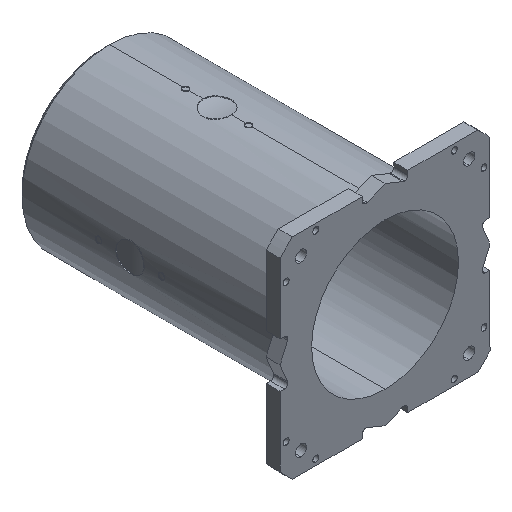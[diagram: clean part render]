
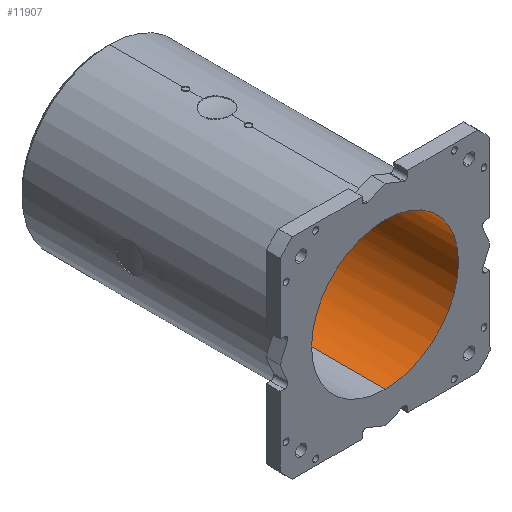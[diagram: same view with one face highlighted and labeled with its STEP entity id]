
A CAD part, isometric view. The second image highlights one B-rep face of the part: STEP entity #11907.
In plain terms, the highlighted cylindrical face has radius 105 mm (diameter 210 mm), a partial arc.
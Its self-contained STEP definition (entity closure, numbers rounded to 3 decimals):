
#224 = DIRECTION ( 'NONE',  ( 0., 0., -1. ) ) ;
#435 = CIRCLE ( 'NONE', #6548, 105. ) ;
#644 = CIRCLE ( 'NONE', #8033, 105. ) ;
#657 = AXIS2_PLACEMENT_3D ( 'NONE', #10338, #2208, #8399 ) ;
#751 = VERTEX_POINT ( 'NONE', #2147 ) ;
#754 = EDGE_CURVE ( 'NONE', #7667, #1467, #5046, .T. ) ;
#894 = EDGE_CURVE ( 'NONE', #10348, #7667, #1686, .T. ) ;
#956 = ORIENTED_EDGE ( 'NONE', *, *, #2364, .F. ) ;
#1080 = CIRCLE ( 'NONE', #8038, 105. ) ;
#1192 = ORIENTED_EDGE ( 'NONE', *, *, #8589, .F. ) ;
#1352 = DIRECTION ( 'NONE',  ( 0., -1., 0. ) ) ;
#1390 = CIRCLE ( 'NONE', #10465, 105. ) ;
#1467 = VERTEX_POINT ( 'NONE', #4011 ) ;
#1686 = CIRCLE ( 'NONE', #2545, 105. ) ;
#1981 = VERTEX_POINT ( 'NONE', #7081 ) ;
#2147 = CARTESIAN_POINT ( 'NONE',  ( 69.052, 382., 79.1 ) ) ;
#2208 = DIRECTION ( 'NONE',  ( 0., -1., 0. ) ) ;
#2211 = CARTESIAN_POINT ( 'NONE',  ( 0., 382., 0. ) ) ;
#2364 = EDGE_CURVE ( 'NONE', #3290, #751, #3843, .T. ) ;
#2411 = EDGE_CURVE ( 'NONE', #3315, #4385, #9750, .T. ) ;
#2437 = DIRECTION ( 'NONE',  ( 0., 0., -1. ) ) ;
#2545 = AXIS2_PLACEMENT_3D ( 'NONE', #5427, #9465, #224 ) ;
#2743 = CARTESIAN_POINT ( 'NONE',  ( 0., 0., -105. ) ) ;
#3020 = VERTEX_POINT ( 'NONE', #8523 ) ;
#3211 = AXIS2_PLACEMENT_3D ( 'NONE', #12420, #1352, #8333 ) ;
#3214 = EDGE_CURVE ( 'NONE', #9667, #4385, #5747, .T. ) ;
#3290 = VERTEX_POINT ( 'NONE', #7391 ) ;
#3315 = VERTEX_POINT ( 'NONE', #6860 ) ;
#3359 = CYLINDRICAL_SURFACE ( 'NONE', #9519, 105. ) ;
#3452 = CARTESIAN_POINT ( 'NONE',  ( 65.645, 382., 81.95 ) ) ;
#3843 = CIRCLE ( 'NONE', #8064, 105. ) ;
#3848 = CARTESIAN_POINT ( 'NONE',  ( 0., 382., -105. ) ) ;
#3862 = VECTOR ( 'NONE', #10921, 1000. ) ;
#4011 = CARTESIAN_POINT ( 'NONE',  ( 76.483, 382., -71.94 ) ) ;
#4207 = ORIENTED_EDGE ( 'NONE', *, *, #9409, .F. ) ;
#4331 = EDGE_CURVE ( 'NONE', #5895, #3020, #1390, .T. ) ;
#4334 = CIRCLE ( 'NONE', #10251, 105. ) ;
#4385 = VERTEX_POINT ( 'NONE', #5942 ) ;
#4885 = ORIENTED_EDGE ( 'NONE', *, *, #8383, .T. ) ;
#4965 = CARTESIAN_POINT ( 'NONE',  ( 0., 382., 105. ) ) ;
#4979 = DIRECTION ( 'NONE',  ( 0., 0., -1. ) ) ;
#5046 = CIRCLE ( 'NONE', #12894, 105. ) ;
#5120 = CARTESIAN_POINT ( 'NONE',  ( 71.94, 382., -76.483 ) ) ;
#5296 = DIRECTION ( 'NONE',  ( 0., 0., -1. ) ) ;
#5427 = CARTESIAN_POINT ( 'NONE',  ( 0., 382., 0. ) ) ;
#5570 = CARTESIAN_POINT ( 'NONE',  ( 0., 382., 0. ) ) ;
#5708 = DIRECTION ( 'NONE',  ( 0., 0., -1. ) ) ;
#5747 = LINE ( 'NONE', #6876, #3862 ) ;
#5895 = VERTEX_POINT ( 'NONE', #3452 ) ;
#5942 = CARTESIAN_POINT ( 'NONE',  ( 0., 0., 105. ) ) ;
#6027 = CARTESIAN_POINT ( 'NONE',  ( 57.845, 382., 87.63 ) ) ;
#6198 = EDGE_LOOP ( 'NONE', ( #6233, #8754, #1192, #11175, #4207, #956, #10935, #7094, #6333, #9370, #4885, #11197 ) ) ;
#6225 = DIRECTION ( 'NONE',  ( 0., -1., 0. ) ) ;
#6233 = ORIENTED_EDGE ( 'NONE', *, *, #3214, .F. ) ;
#6284 = DIRECTION ( 'NONE',  ( 0., -1., 0. ) ) ;
#6307 = DIRECTION ( 'NONE',  ( 0., 0., -1. ) ) ;
#6333 = ORIENTED_EDGE ( 'NONE', *, *, #754, .F. ) ;
#6548 = AXIS2_PLACEMENT_3D ( 'NONE', #7824, #7097, #9873 ) ;
#6662 = CARTESIAN_POINT ( 'NONE',  ( 0., 382., 0. ) ) ;
#6860 = CARTESIAN_POINT ( 'NONE',  ( 0., 0., -105. ) ) ;
#6876 = CARTESIAN_POINT ( 'NONE',  ( 0., 0., 105. ) ) ;
#7081 = CARTESIAN_POINT ( 'NONE',  ( 76.483, 382., 71.94 ) ) ;
#7094 = ORIENTED_EDGE ( 'NONE', *, *, #8693, .F. ) ;
#7097 = DIRECTION ( 'NONE',  ( 0., -1., 0. ) ) ;
#7291 = CARTESIAN_POINT ( 'NONE',  ( 0., 382., 0. ) ) ;
#7391 = CARTESIAN_POINT ( 'NONE',  ( 71.94, 382., 76.483 ) ) ;
#7559 = LINE ( 'NONE', #2743, #9277 ) ;
#7667 = VERTEX_POINT ( 'NONE', #5120 ) ;
#7760 = DIRECTION ( 'NONE',  ( 0., -1., 0. ) ) ;
#7775 = VERTEX_POINT ( 'NONE', #6027 ) ;
#7824 = CARTESIAN_POINT ( 'NONE',  ( 0., 382., 0. ) ) ;
#8033 = AXIS2_PLACEMENT_3D ( 'NONE', #5570, #7760, #5708 ) ;
#8038 = AXIS2_PLACEMENT_3D ( 'NONE', #11275, #6284, #5296 ) ;
#8064 = AXIS2_PLACEMENT_3D ( 'NONE', #7291, #8087, #10280 ) ;
#8087 = DIRECTION ( 'NONE',  ( 0., -1., 0. ) ) ;
#8293 = DIRECTION ( 'NONE',  ( 0., -1., 0. ) ) ;
#8333 = DIRECTION ( 'NONE',  ( 0., 0., -1. ) ) ;
#8383 = EDGE_CURVE ( 'NONE', #10348, #3315, #7559, .T. ) ;
#8399 = DIRECTION ( 'NONE',  ( 0., 0., -1. ) ) ;
#8502 = CARTESIAN_POINT ( 'NONE',  ( 0., 0., 0. ) ) ;
#8523 = CARTESIAN_POINT ( 'NONE',  ( 63.2, 382., 83.85 ) ) ;
#8589 = EDGE_CURVE ( 'NONE', #3020, #7775, #435, .T. ) ;
#8646 = EDGE_CURVE ( 'NONE', #7775, #9667, #11015, .T. ) ;
#8693 = EDGE_CURVE ( 'NONE', #1467, #1981, #1080, .T. ) ;
#8754 = ORIENTED_EDGE ( 'NONE', *, *, #8646, .F. ) ;
#9216 = CARTESIAN_POINT ( 'NONE',  ( 0., 382., 0. ) ) ;
#9277 = VECTOR ( 'NONE', #9545, 1000. ) ;
#9370 = ORIENTED_EDGE ( 'NONE', *, *, #894, .F. ) ;
#9409 = EDGE_CURVE ( 'NONE', #751, #5895, #4334, .T. ) ;
#9465 = DIRECTION ( 'NONE',  ( 0., -1., 0. ) ) ;
#9519 = AXIS2_PLACEMENT_3D ( 'NONE', #8502, #11506, #2437 ) ;
#9545 = DIRECTION ( 'NONE',  ( 0., -1., 0. ) ) ;
#9667 = VERTEX_POINT ( 'NONE', #4965 ) ;
#9750 = CIRCLE ( 'NONE', #3211, 105. ) ;
#9873 = DIRECTION ( 'NONE',  ( 0., 0., -1. ) ) ;
#10251 = AXIS2_PLACEMENT_3D ( 'NONE', #9216, #8293, #6307 ) ;
#10280 = DIRECTION ( 'NONE',  ( 0., 0., -1. ) ) ;
#10338 = CARTESIAN_POINT ( 'NONE',  ( 0., 382., 0. ) ) ;
#10348 = VERTEX_POINT ( 'NONE', #3848 ) ;
#10465 = AXIS2_PLACEMENT_3D ( 'NONE', #6662, #12538, #10517 ) ;
#10517 = DIRECTION ( 'NONE',  ( 0., 0., -1. ) ) ;
#10921 = DIRECTION ( 'NONE',  ( 0., -1., 0. ) ) ;
#10935 = ORIENTED_EDGE ( 'NONE', *, *, #11235, .F. ) ;
#11015 = CIRCLE ( 'NONE', #657, 105. ) ;
#11175 = ORIENTED_EDGE ( 'NONE', *, *, #4331, .F. ) ;
#11197 = ORIENTED_EDGE ( 'NONE', *, *, #2411, .T. ) ;
#11235 = EDGE_CURVE ( 'NONE', #1981, #3290, #644, .T. ) ;
#11275 = CARTESIAN_POINT ( 'NONE',  ( 0., 382., 0. ) ) ;
#11506 = DIRECTION ( 'NONE',  ( 0., -1., 0. ) ) ;
#11907 = ADVANCED_FACE ( 'NONE', ( #12450 ), #3359, .F. ) ;
#12420 = CARTESIAN_POINT ( 'NONE',  ( 0., 0., 0. ) ) ;
#12450 = FACE_OUTER_BOUND ( 'NONE', #6198, .T. ) ;
#12538 = DIRECTION ( 'NONE',  ( 0., -1., 0. ) ) ;
#12894 = AXIS2_PLACEMENT_3D ( 'NONE', #2211, #6225, #4979 ) ;
